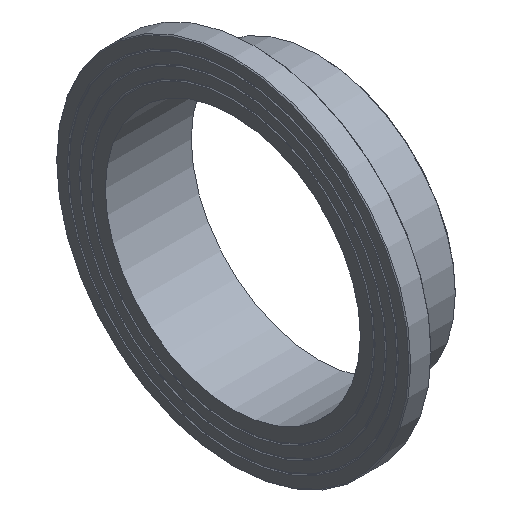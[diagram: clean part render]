
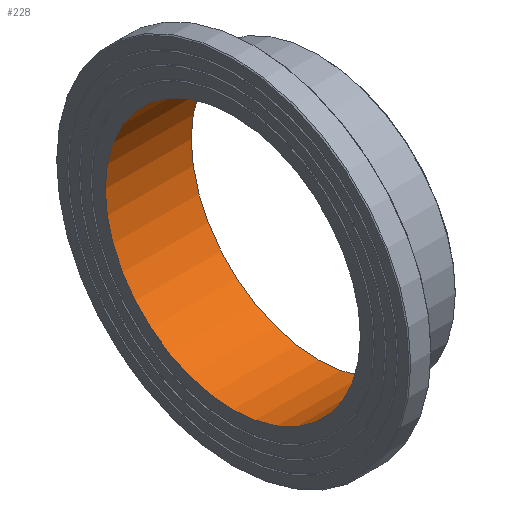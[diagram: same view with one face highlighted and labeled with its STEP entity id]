
A CAD part, isometric view. The second image highlights one B-rep face of the part: STEP entity #228.
In plain terms, the highlighted cylindrical face has radius 207.8 mm (diameter 415.6 mm), a full revolution.
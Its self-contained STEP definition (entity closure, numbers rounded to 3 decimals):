
#33=CYLINDRICAL_SURFACE('',#274,207.8);
#50=ORIENTED_EDGE('',*,*,#79,.F.);
#51=ORIENTED_EDGE('',*,*,#76,.T.);
#76=EDGE_CURVE('',#96,#96,#116,.T.);
#79=EDGE_CURVE('',#99,#99,#119,.T.);
#96=VERTEX_POINT('',#383);
#99=VERTEX_POINT('',#390);
#116=CIRCLE('',#257,207.8);
#119=CIRCLE('',#261,207.8);
#150=EDGE_LOOP('',(#50));
#151=EDGE_LOOP('',(#51));
#190=FACE_BOUND('',#150,.T.);
#191=FACE_BOUND('',#151,.T.);
#228=ADVANCED_FACE('',(#190,#191),#33,.F.);
#257=AXIS2_PLACEMENT_3D('',#382,#303,#304);
#261=AXIS2_PLACEMENT_3D('',#389,#311,#312);
#274=AXIS2_PLACEMENT_3D('',#410,#337,#338);
#303=DIRECTION('',(-1.,0.,0.));
#304=DIRECTION('',(0.,0.,1.));
#311=DIRECTION('',(-1.,0.,0.));
#312=DIRECTION('',(0.,0.,1.));
#337=DIRECTION('',(-1.,0.,0.));
#338=DIRECTION('',(0.,0.,1.));
#382=CARTESIAN_POINT('',(0.,0.,0.));
#383=CARTESIAN_POINT('',(0.,0.,207.8));
#389=CARTESIAN_POINT('',(140.,0.,0.));
#390=CARTESIAN_POINT('',(140.,0.,207.8));
#410=CARTESIAN_POINT('',(60.,0.,0.));
